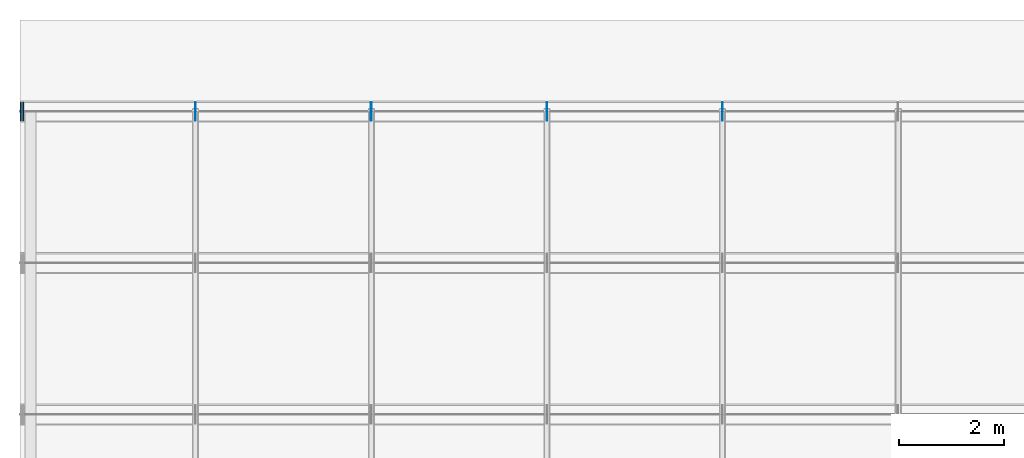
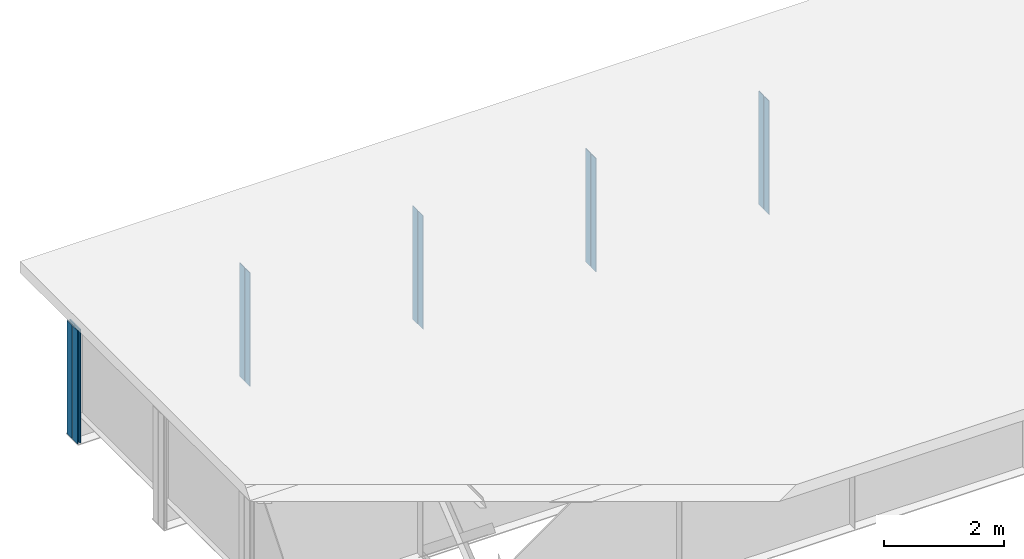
# One storey, part 4 of 15: 12 plates.
"""IFC4 building model written with IfcOpenShell, lengths in metres."""

from ifc_helpers import new_model, si_unit, frame, origin, origin_with_axes, origin_2d_with_axis, place, context, subcontext, project, spatial, rectangle, extrude, element, save


model = new_model("IFC4")

# Units and contexts
model_context = context("Model", 3, precision=1e-05, world=origin())
body_context = subcontext(model_context, "Body", "Model", "MODEL_VIEW")
ifc_project = project(units=[si_unit("LENGTHUNIT", "METRE"), si_unit("AREAUNIT", "SQUARE_METRE"), si_unit("VOLUMEUNIT", "CUBIC_METRE"), si_unit("PLANEANGLEUNIT", "RADIAN")], contexts=[model_context])

# Site, building, storey
site_placement = place(None, origin_with_axes())
site = spatial("IfcSite", under=ifc_project, at=site_placement, Name="Default Site")
building_placement = place(site_placement, origin_with_axes())
building = spatial("IfcBuilding", under=site, at=building_placement, Name="Bridge Structure")
storey_placement = place(building_placement, origin_with_axes())
storey = spatial("IfcBuildingStorey", under=building, at=storey_placement, Name="Superstructure")

# Plates
for number, where, z_axis, x_axis, name in (
    (1, (3.333, 4.404, -1.157), (0.0, 0.0, 1.0), (1.0, 0.0, 0.0), "Intermediate Stiffener 4"),
    (2, (3.333, 4.221, -1.157), (0.0, 0.0, 1.0), (1.0, 0.0, 0.0), "Intermediate Stiffener 4"),
    (3, (6.666, 4.404, -1.157), (0.0, 0.0, 1.0), (1.0, 0.0, 0.0), "Intermediate Stiffener 4"),
    (4, (6.666, 4.221, -1.157), (0.0, 0.0, 1.0), (1.0, 0.0, 0.0), "Intermediate Stiffener 4"),
    (5, (9.999, 4.404, -1.157), (0.0, 0.0, 1.0), (1.0, 0.0, 0.0), "Intermediate Stiffener 4"),
    (6, (9.999, 4.221, -1.157), (0.0, 0.0, 1.0), (1.0, 0.0, 0.0), "Intermediate Stiffener 4"),
    (7, (13.332, 4.404, -1.157), (0.0, 0.0, 1.0), (1.0, 0.0, 0.0), "Intermediate Stiffener 4"),
    (8, (13.332, 4.221, -1.157), (0.0, 0.0, 1.0), (1.0, 0.0, 0.0), "Intermediate Stiffener 4"),
):
    element("IfcPlate", number, at=place(storey_placement, frame(where, z_axis=z_axis, x_axis=x_axis)), inside=storey, Name=name, context=body_context, shape_type="SweptSolid", body=[
        extrude(rectangle(XDim=0.012, YDim=0.167, at=origin_2d_with_axis()), origin_with_axes(), (0.0, 0.0, 1.0), 2.314),
    ])
for number, where, z_axis, x_axis, name in (
    (9, (0.01, 4.404, -1.157), (0.0, 0.0, 1.0), (1.0, 0.0, 0.0), "End Stiffener 4"),
    (10, (0.01, 4.221, -1.157), (0.0, 0.0, 1.0), (1.0, 0.0, 0.0), "End Stiffener 4"),
    (11, (0.06, 4.404, -1.157), (0.0, 0.0, 1.0), (1.0, 0.0, 0.0), "End Stiffener 4"),
    (12, (0.06, 4.221, -1.157), (0.0, 0.0, 1.0), (1.0, 0.0, 0.0), "End Stiffener 4"),
):
    element("IfcPlate", number, at=place(storey_placement, frame(where, z_axis=z_axis, x_axis=x_axis)), inside=storey, Name=name, context=body_context, shape_type="SweptSolid", body=[
        extrude(rectangle(XDim=0.02, YDim=0.167, at=origin_2d_with_axis()), origin_with_axes(), (0.0, 0.0, 1.0), 2.314),
    ])

save(model, "model.ifc")
